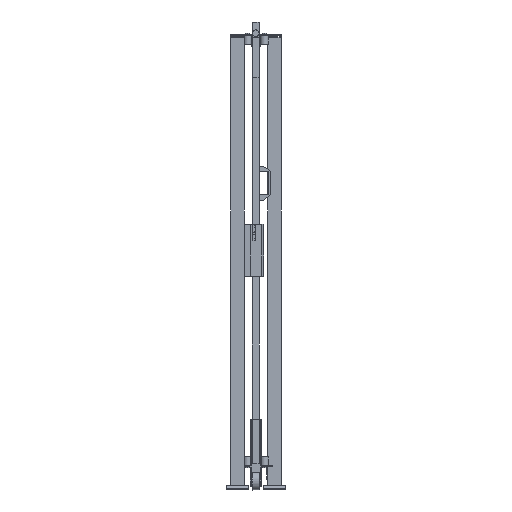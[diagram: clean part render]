
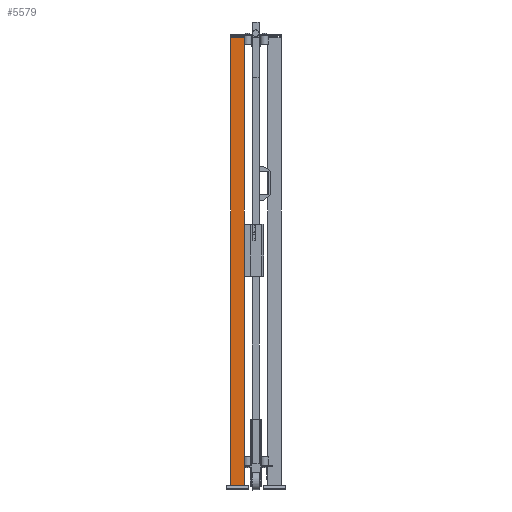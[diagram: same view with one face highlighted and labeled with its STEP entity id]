
A CAD part, left-side view. The second image highlights one B-rep face of the part: STEP entity #5579.
In plain terms, the highlighted planar face has unit normal (-1, 0, 0) as drawn and (0, 1, 0) by its records, which use the part's own axes.
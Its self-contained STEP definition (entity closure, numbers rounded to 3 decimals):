
#580=FACE_OUTER_BOUND('',#1003,.T.);
#1003=EDGE_LOOP('',(#3496,#3497,#3498,#3499));
#1477=VERTEX_POINT('',#11828);
#1478=VERTEX_POINT('',#11830);
#1480=VERTEX_POINT('',#11836);
#1483=VERTEX_POINT('',#11841);
#2267=EDGE_CURVE('',#1477,#1478,#6553,.T.);
#2273=EDGE_CURVE('',#1483,#1480,#6559,.T.);
#2276=EDGE_CURVE('',#1478,#1483,#6562,.T.);
#2277=EDGE_CURVE('',#1477,#1480,#6563,.T.);
#3496=ORIENTED_EDGE('',*,*,#2277,.T.);
#3497=ORIENTED_EDGE('',*,*,#2273,.F.);
#3498=ORIENTED_EDGE('',*,*,#2276,.F.);
#3499=ORIENTED_EDGE('',*,*,#2267,.F.);
#5200=PLANE('',#8395);
#5579=ADVANCED_FACE('',(#580),#5200,.F.);
#6553=LINE('',#11831,#7547);
#6559=LINE('',#11843,#7553);
#6562=LINE('',#11848,#7556);
#6563=LINE('',#11850,#7557);
#7547=VECTOR('',#9351,1.);
#7553=VECTOR('',#9359,1.);
#7556=VECTOR('',#9366,1.);
#7557=VECTOR('',#9369,1.);
#8395=AXIS2_PLACEMENT_3D('',#11849,#9367,#9368);
#9351=DIRECTION('',(-1.,0.,0.));
#9359=DIRECTION('',(1.,0.,0.));
#9366=DIRECTION('',(0.,0.,-1.));
#9367=DIRECTION('center_axis',(0.,-1.,0.));
#9368=DIRECTION('ref_axis',(0.,0.,-1.));
#9369=DIRECTION('',(0.,0.,-1.));
#11828=CARTESIAN_POINT('',(30.,30.,2020.));
#11830=CARTESIAN_POINT('',(-30.,30.,2020.));
#11831=CARTESIAN_POINT('',(0.,30.,2020.));
#11836=CARTESIAN_POINT('',(30.,30.,20.));
#11841=CARTESIAN_POINT('',(-30.,30.,20.));
#11843=CARTESIAN_POINT('',(0.,30.,20.));
#11848=CARTESIAN_POINT('',(-30.,30.,1020.));
#11849=CARTESIAN_POINT('Origin',(0.,30.,
1020.));
#11850=CARTESIAN_POINT('',(30.,30.,1020.));
